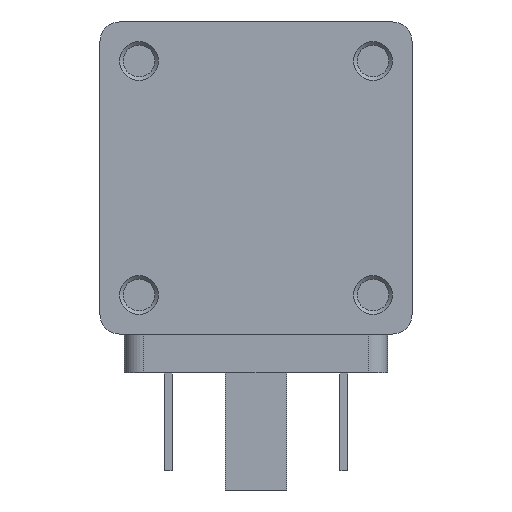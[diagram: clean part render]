
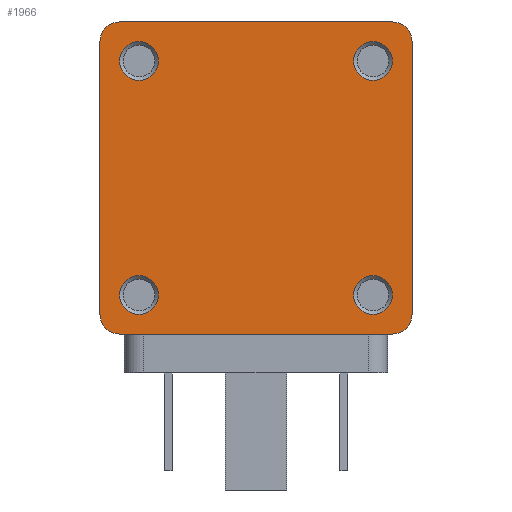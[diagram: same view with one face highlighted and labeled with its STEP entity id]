
A CAD part, front view. The second image highlights one B-rep face of the part: STEP entity #1966.
In plain terms, the highlighted planar face has unit normal (0, -1, 0).
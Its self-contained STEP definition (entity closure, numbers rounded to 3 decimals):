
#70=FACE_BOUND('',#284,.T.);
#71=FACE_BOUND('',#285,.T.);
#72=FACE_BOUND('',#286,.T.);
#73=FACE_BOUND('',#287,.T.);
#161=FACE_OUTER_BOUND('',#283,.T.);
#283=EDGE_LOOP('',(#1534,#1535,#1536,#1537,#1538,#1539,#1540,#1541));
#284=EDGE_LOOP('',(#1542));
#285=EDGE_LOOP('',(#1543));
#286=EDGE_LOOP('',(#1544));
#287=EDGE_LOOP('',(#1545));
#376=CIRCLE('',#2127,2.);
#379=CIRCLE('',#2133,2.);
#382=CIRCLE('',#2139,2.);
#385=CIRCLE('',#2145,2.);
#386=CIRCLE('',#2150,2.);
#387=CIRCLE('',#2152,2.);
#388=CIRCLE('',#2154,2.);
#389=CIRCLE('',#2155,2.);
#533=LINE('',#3162,#714);
#538=LINE('',#3180,#719);
#539=LINE('',#3181,#720);
#540=LINE('',#3182,#721);
#714=VECTOR('',#2607,1000.);
#719=VECTOR('',#2626,1000.);
#720=VECTOR('',#2627,1000.);
#721=VECTOR('',#2628,1000.);
#885=VERTEX_POINT('',#3116);
#888=VERTEX_POINT('',#3127);
#891=VERTEX_POINT('',#3138);
#894=VERTEX_POINT('',#3149);
#895=VERTEX_POINT('',#3157);
#896=VERTEX_POINT('',#3160);
#897=VERTEX_POINT('',#3164);
#898=VERTEX_POINT('',#3166);
#899=VERTEX_POINT('',#3170);
#900=VERTEX_POINT('',#3172);
#901=VERTEX_POINT('',#3176);
#902=VERTEX_POINT('',#3178);
#1102=EDGE_CURVE('',#885,#885,#376,.T.);
#1107=EDGE_CURVE('',#888,#888,#379,.T.);
#1112=EDGE_CURVE('',#891,#891,#382,.T.);
#1117=EDGE_CURVE('',#894,#894,#385,.T.);
#1123=EDGE_CURVE('',#896,#895,#533,.T.);
#1126=EDGE_CURVE('',#898,#897,#386,.T.);
#1129=EDGE_CURVE('',#900,#899,#387,.T.);
#1130=EDGE_CURVE('',#895,#901,#388,.T.);
#1131=EDGE_CURVE('',#902,#896,#389,.T.);
#1132=EDGE_CURVE('',#899,#902,#538,.T.);
#1133=EDGE_CURVE('',#897,#900,#539,.T.);
#1134=EDGE_CURVE('',#901,#898,#540,.T.);
#1534=ORIENTED_EDGE('',*,*,#1130,.F.);
#1535=ORIENTED_EDGE('',*,*,#1123,.F.);
#1536=ORIENTED_EDGE('',*,*,#1131,.F.);
#1537=ORIENTED_EDGE('',*,*,#1132,.F.);
#1538=ORIENTED_EDGE('',*,*,#1129,.F.);
#1539=ORIENTED_EDGE('',*,*,#1133,.F.);
#1540=ORIENTED_EDGE('',*,*,#1126,.F.);
#1541=ORIENTED_EDGE('',*,*,#1134,.F.);
#1542=ORIENTED_EDGE('',*,*,#1117,.F.);
#1543=ORIENTED_EDGE('',*,*,#1112,.F.);
#1544=ORIENTED_EDGE('',*,*,#1107,.F.);
#1545=ORIENTED_EDGE('',*,*,#1102,.F.);
#1756=PLANE('',#2153);
#1966=ADVANCED_FACE('',(#161,#70,#71,#72,#73),#1756,.F.);
#2127=AXIS2_PLACEMENT_3D('',#3118,#2552,#2553);
#2133=AXIS2_PLACEMENT_3D('',#3129,#2566,#2567);
#2139=AXIS2_PLACEMENT_3D('',#3140,#2580,#2581);
#2145=AXIS2_PLACEMENT_3D('',#3151,#2594,#2595);
#2150=AXIS2_PLACEMENT_3D('',#3168,#2612,#2613);
#2152=AXIS2_PLACEMENT_3D('',#3174,#2618,#2619);
#2153=AXIS2_PLACEMENT_3D('',#3175,#2620,#2621);
#2154=AXIS2_PLACEMENT_3D('',#3177,#2622,#2623);
#2155=AXIS2_PLACEMENT_3D('',#3179,#2624,#2625);
#2552=DIRECTION('center_axis',(0.,-1.,0.));
#2553=DIRECTION('ref_axis',(0.,0.,-1.));
#2566=DIRECTION('center_axis',(0.,-1.,0.));
#2567=DIRECTION('ref_axis',(0.,0.,-1.));
#2580=DIRECTION('center_axis',(0.,-1.,0.));
#2581=DIRECTION('ref_axis',(0.,0.,-1.));
#2594=DIRECTION('center_axis',(0.,-1.,0.));
#2595=DIRECTION('ref_axis',(0.,0.,-1.));
#2607=DIRECTION('',(-1.,0.,0.));
#2612=DIRECTION('center_axis',(0.,1.,0.));
#2613=DIRECTION('ref_axis',(1.,0.,0.));
#2618=DIRECTION('center_axis',(0.,1.,0.));
#2619=DIRECTION('ref_axis',(1.,0.,0.));
#2620=DIRECTION('center_axis',(0.,1.,0.));
#2621=DIRECTION('ref_axis',(0.,0.,1.));
#2622=DIRECTION('center_axis',(0.,1.,0.));
#2623=DIRECTION('ref_axis',(1.,0.,0.));
#2624=DIRECTION('center_axis',(0.,1.,0.));
#2625=DIRECTION('ref_axis',(1.,0.,0.));
#2626=DIRECTION('',(0.,0.,-1.));
#2627=DIRECTION('',(1.,0.,0.));
#2628=DIRECTION('',(0.,0.,1.));
#3116=CARTESIAN_POINT('',(12.,-17.5,-10.));
#3118=CARTESIAN_POINT('Origin',(12.,-17.5,-12.));
#3127=CARTESIAN_POINT('',(-12.,-17.5,-10.));
#3129=CARTESIAN_POINT('Origin',(-12.,-17.5,-12.));
#3138=CARTESIAN_POINT('',(-12.,-17.5,14.));
#3140=CARTESIAN_POINT('Origin',(-12.,-17.5,12.));
#3149=CARTESIAN_POINT('',(12.,-17.5,14.));
#3151=CARTESIAN_POINT('Origin',(12.,-17.5,12.));
#3157=CARTESIAN_POINT('',(-14.,-17.5,-16.));
#3160=CARTESIAN_POINT('',(14.,-17.5,-16.));
#3162=CARTESIAN_POINT('',(16.,-17.5,-16.));
#3164=CARTESIAN_POINT('',(-14.,-17.5,16.));
#3166=CARTESIAN_POINT('',(-16.,-17.5,14.));
#3168=CARTESIAN_POINT('Origin',(-14.,-17.5,14.));
#3170=CARTESIAN_POINT('',(16.,-17.5,14.));
#3172=CARTESIAN_POINT('',(14.,-17.5,16.));
#3174=CARTESIAN_POINT('Origin',(14.,-17.5,14.));
#3175=CARTESIAN_POINT('Origin',(0.,-17.5,0.));
#3176=CARTESIAN_POINT('',(-16.,-17.5,-14.));
#3177=CARTESIAN_POINT('Origin',(-14.,-17.5,-14.));
#3178=CARTESIAN_POINT('',(16.,-17.5,-14.));
#3179=CARTESIAN_POINT('Origin',(14.,-17.5,-14.));
#3180=CARTESIAN_POINT('',(16.,-17.5,16.));
#3181=CARTESIAN_POINT('',(-16.,-17.5,16.));
#3182=CARTESIAN_POINT('',(-16.,-17.5,-16.));
